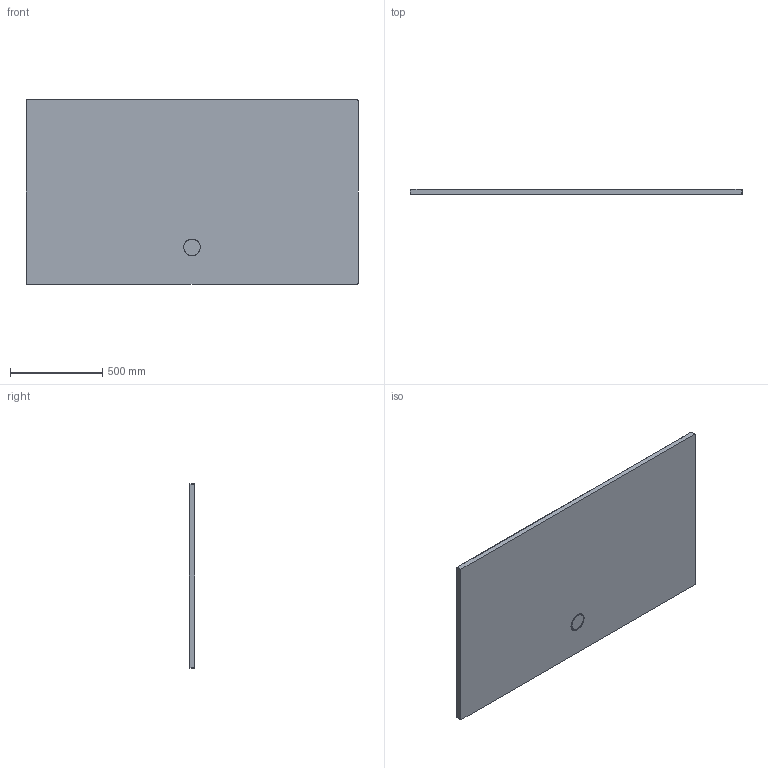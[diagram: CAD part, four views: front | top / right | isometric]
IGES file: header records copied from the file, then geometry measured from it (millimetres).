
Start section: SolidWorks IGES file using analytic representation for surfaces
Global section: file name: D:\Users\M.Szymanski\Desktop\B-M_Space\B_M_100x180x1,5.IGS; native system: SolidWorks 2011; preprocessor: SolidWorks 2011; author: M.Szymanski; date: 180216.070910; units: millimetre
Bounding box: 1800 x 30 x 1000 mm (x, y, z)
Surface area: 3780459.9 mm2 (no closed solid volume)
Topology: 0 solids, 0 shells, 61 faces, 739 edges, 736 vertices
Faces by surface type: bspline 39, revolution 22
